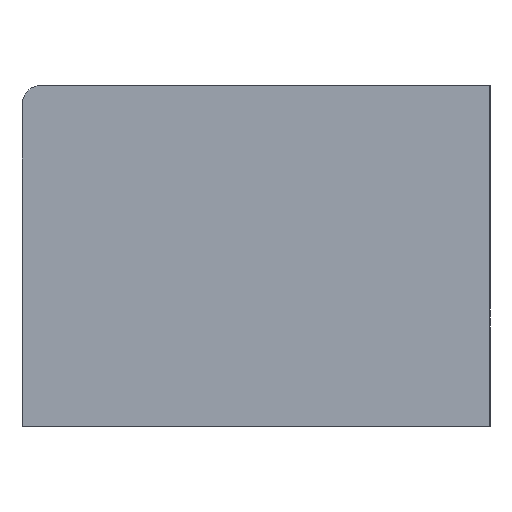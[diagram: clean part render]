
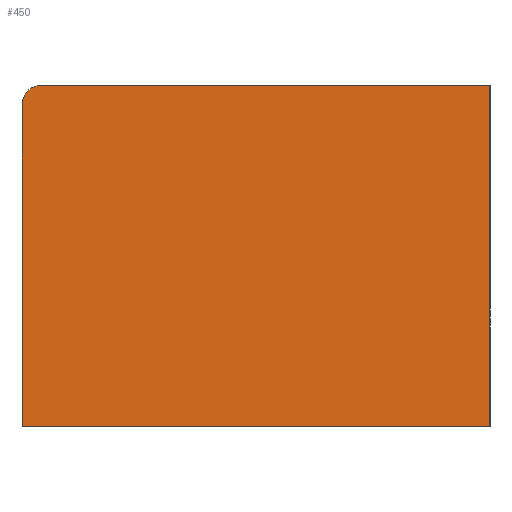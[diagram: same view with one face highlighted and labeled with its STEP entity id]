
A CAD part, left-side view. The second image highlights one B-rep face of the part: STEP entity #450.
In plain terms, the highlighted planar face has unit normal (-1, 0, 0).
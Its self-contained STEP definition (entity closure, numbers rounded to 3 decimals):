
#233=CARTESIAN_POINT('Vertex',(0.,0.,70.)) ;
#236=CARTESIAN_POINT('Line Origine',(0.,0.,35.)) ;
#240=CARTESIAN_POINT('Vertex',(0.,0.,0.)) ;
#329=CARTESIAN_POINT('Vertex',(0.,96.,0.)) ;
#332=CARTESIAN_POINT('Line Origine',(0.,96.,33.)) ;
#336=CARTESIAN_POINT('Vertex',(0.,96.,66.)) ;
#396=CARTESIAN_POINT('Line Origine',(0.,48.,0.)) ;
#414=CARTESIAN_POINT('Axis2P3D Location',(0.,92.,66.)) ;
#418=CARTESIAN_POINT('Vertex',(0.,92.,70.)) ;
#433=CARTESIAN_POINT('Axis2P3D Location',(0.,96.,0.)) ;
#438=CARTESIAN_POINT('Line Origine',(0.,46.,70.)) ;
#237=DIRECTION('Vector Direction',(0.,0.,1.)) ;
#333=DIRECTION('Vector Direction',(0.,0.,1.)) ;
#397=DIRECTION('Vector Direction',(0.,-1.,0.)) ;
#415=DIRECTION('Axis2P3D Direction',(-1.,0.,0.)) ;
#434=DIRECTION('Axis2P3D Direction',(-1.,0.,0.)) ;
#435=DIRECTION('Axis2P3D XDirection',(0.,-1.,0.)) ;
#439=DIRECTION('Vector Direction',(0.,1.,0.)) ;
#416=AXIS2_PLACEMENT_3D('Circle Axis2P3D',#414,#415,$) ;
#436=AXIS2_PLACEMENT_3D('Plane Axis2P3D',#433,#434,#435) ;
#444=ORIENTED_EDGE('',*,*,#242,.T.) ;
#445=ORIENTED_EDGE('',*,*,#442,.T.) ;
#446=ORIENTED_EDGE('',*,*,#420,.T.) ;
#447=ORIENTED_EDGE('',*,*,#338,.F.) ;
#448=ORIENTED_EDGE('',*,*,#400,.T.) ;
#238=VECTOR('Line Direction',#237,1.) ;
#334=VECTOR('Line Direction',#333,1.) ;
#398=VECTOR('Line Direction',#397,1.) ;
#440=VECTOR('Line Direction',#439,1.) ;
#450=ADVANCED_FACE('PartBody',(#449),#437,.T.) ;
#417=CIRCLE('generated circle',#416,4.) ;
#242=EDGE_CURVE('',#241,#234,#239,.T.) ;
#338=EDGE_CURVE('',#330,#337,#335,.T.) ;
#400=EDGE_CURVE('',#330,#241,#399,.T.) ;
#420=EDGE_CURVE('',#419,#337,#417,.T.) ;
#442=EDGE_CURVE('',#234,#419,#441,.T.) ;
#443=EDGE_LOOP('',(#444,#445,#446,#447,#448)) ;
#449=FACE_OUTER_BOUND('',#443,.T.) ;
#239=LINE('Line',#236,#238) ;
#335=LINE('Line',#332,#334) ;
#399=LINE('Line',#396,#398) ;
#441=LINE('Line',#438,#440) ;
#437=PLANE('',#436) ;
#234=VERTEX_POINT('',#233) ;
#241=VERTEX_POINT('',#240) ;
#330=VERTEX_POINT('',#329) ;
#337=VERTEX_POINT('',#336) ;
#419=VERTEX_POINT('',#418) ;
